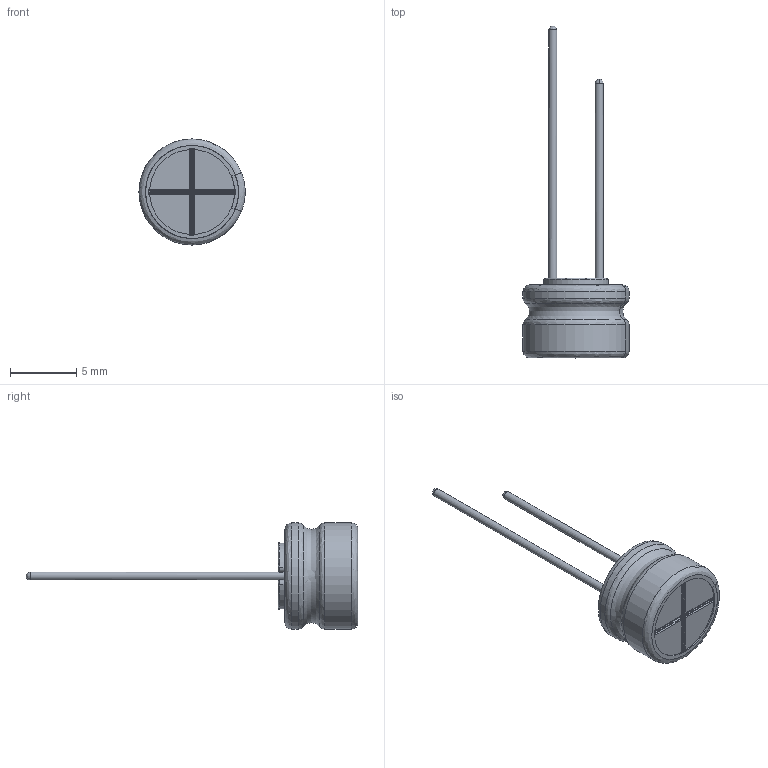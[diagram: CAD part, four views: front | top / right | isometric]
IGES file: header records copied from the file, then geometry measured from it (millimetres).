
Start section: JAMA-IS VERSION  1.0
Bounding box: 7.99 x 25 x 8 mm (x, y, z)
Surface area: 630.4 mm2 (no closed solid volume)
Topology: 0 solids, 0 shells, 115 faces, 1347 edges, 1328 vertices
Faces by surface type: bspline 115
